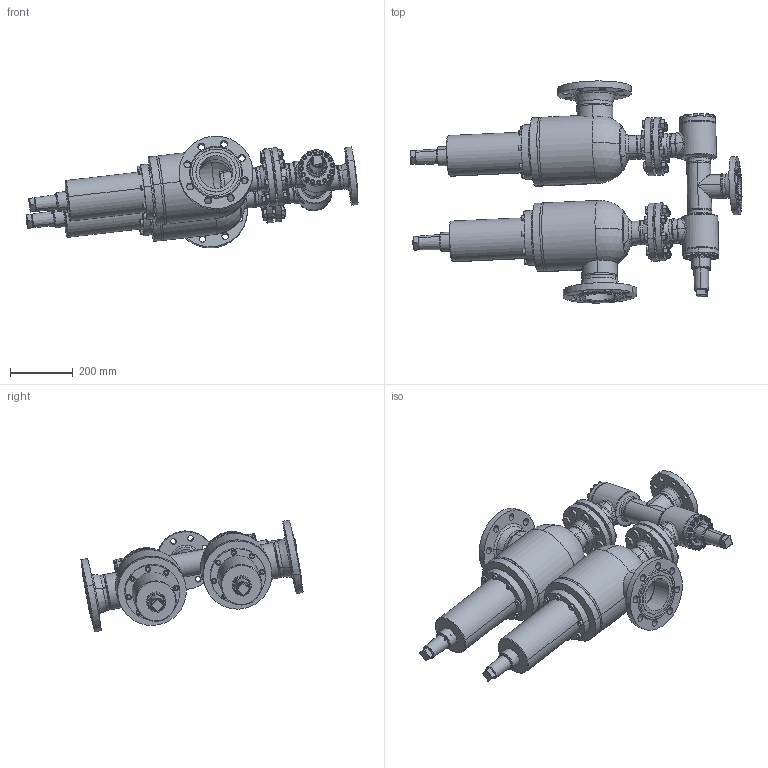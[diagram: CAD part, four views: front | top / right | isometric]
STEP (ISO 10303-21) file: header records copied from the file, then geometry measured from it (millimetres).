
FILE_DESCRIPTION (( 'STEP AP214' ), '1' );
FILE_NAME ('WVR-SVUB_168FL_DN65_DIN-FL.STEP', '2010-09-10T05:26:43', ( 'Eckhard Grams' ), ( 'AWP Kälte Klima Armaturen GmbH' ), 'SwSTEP 2.0', 'SolidWorks 2002296', '' );
FILE_SCHEMA (( 'AUTOMOTIVE_DESIGN' ));
Length unit declared in the file: millimetre
Products named in the file (38): WVR-SVUB_168FL_DN65_DIN-FL; WVR24020D17-DN065_DIN-FL-N-F_PS40_Standard; WVB-R23000K17_Deck+Schr-DN65_Standard; Deckel23000K17-DN65_Standard; Geh,kpl23020E17-DN065_DIN-FL-N-F_PS40_Standard; Flansch-DIN2635-Feder_PS40_DIN-Flansch-DN065_PS40-Feder; Geh,kpl23000E17-DN065_R1_PS40_Standard; bead23000-17-2_Standard; bead23000-17-1_Standard; T-Stück DIN2615_DN 65; Gehäuse23000E17-DN065_R1_PS40_Standard; bead23020-17-3_Standard; bead23020-17-2_Standard; bead23020-17-1_Standard; AVR26300K17_Deck+Schr-DN65_Standard; Deckel26300K17-DN65_Standard; Zylinderschraube-DIN912_M 8x  25; SVUB44200C17-DN65-(100)_DIN-FL_Standard; Loser-FL44200-17-DN65-SVU_PS25_Standard; Flach-Dichtring44331-20-65_DN 65; Geh,kpl 44331-17-DN65-(100)_DIN-FL-N_Standard; Geh,kpl 44331-17-DN65-(100)_R1_PS25_Standard; Geh44331-17-DN65_R1_DN65-100; Kopfstück44331-17-DN65_Standard; bead44331-17-Sitzst-Geh_Standard; bead44331-17-Gehkpl1_Standard; Rohrstutzen-A44331-17-DN65-(100)_R1_SVU; Sitzstutzen44331-17-DN65_kpl-im-geh_Standard; Flansch-DIN2635-Nut_PS40_DIN-Flansch-DN100_PS40-Nut; Flansch-DIN2635-Nut_PS40_DIN-Flansch-DN065_PS40-Nut; bead44331-17-Flana-A_Standard; bead44331-17-Flana-E_Standard; Haube44331-17-DN65_kpl-lt-ZG_Standard; geteilter Ring4433-17-DN65_PS25_Standard; Kappe 16402-15_DN40-65 (M52x3)_Standard; Zylinderschraube-DIN912_M10x 35; Sechskantmutter-DIN934_M16; Sechskantschraube-DIN933_M16x 60
Assembly tree (110 placements, depth 5):
  WVR-SVUB_168FL_DN65_DIN-FL
    Sechskantschraube-DIN933_M16x 60  x16
    Sechskantmutter-DIN934_M16  x16
    SVUB44200C17-DN65-(100)_DIN-FL_Standard  x2
      Zylinderschraube-DIN912_M10x 35
      Haube44331-17-DN65_kpl-lt-ZG_Standard
      Kappe 16402-15_DN40-65 (M52x3)_Standard
      geteilter Ring4433-17-DN65_PS25_Standard
      Geh,kpl 44331-17-DN65-(100)_DIN-FL-N_Standard
        Flansch-DIN2635-Nut_PS40_DIN-Flansch-DN100_PS40-Nut
        Geh,kpl 44331-17-DN65-(100)_R1_PS25_Standard
          Geh44331-17-DN65_R1_DN65-100
          Sitzstutzen44331-17-DN65_kpl-im-geh_Standard
          Rohrstutzen-A44331-17-DN65-(100)_R1_SVU
          Kopfstück44331-17-DN65_Standard
          bead44331-17-Sitzst-Geh_Standard
          bead44331-17-Gehkpl1_Standard
        Flansch-DIN2635-Nut_PS40_DIN-Flansch-DN065_PS40-Nut
        bead44331-17-Flana-A_Standard
        bead44331-17-Flana-E_Standard
      Flach-Dichtring44331-20-65_DN 65
      Loser-FL44200-17-DN65-SVU_PS25_Standard
    WVR24020D17-DN065_DIN-FL-N-F_PS40_Standard
      WVB-R23000K17_Deck+Schr-DN65_Standard
        Zylinderschraube-DIN912_M 8x  25  x16
        Deckel23000K17-DN65_Standard
      Kappe 16402-15_DN40-65 (M52x3)_Standard
      AVR26300K17_Deck+Schr-DN65_Standard
        Zylinderschraube-DIN912_M 8x  25  x16
        Deckel26300K17-DN65_Standard
      Geh,kpl23020E17-DN065_DIN-FL-N-F_PS40_Standard
        Flansch-DIN2635-Feder_PS40_DIN-Flansch-DN065_PS40-Feder  x2
        Geh,kpl23000E17-DN065_R1_PS40_Standard
          Gehäuse23000E17-DN065_R1_PS40_Standard  x2
          bead23000-17-2_Standard
          T-Stück DIN2615_DN 65
          bead23000-17-1_Standard
        bead23020-17-2_Standard
        Flansch-DIN2635-Nut_PS40_DIN-Flansch-DN065_PS40-Nut
        bead23020-17-3_Standard
        bead23020-17-1_Standard
Bounding box: 1058.46 x 707.9 x 356.57 mm (x, y, z)
Volume: 12785657.2 mm3; surface area: 3042045.9 mm2
Topology: 126 solids, 126 shells, 2885 faces, 6551 edges, 4003 vertices
Faces by surface type: plane 953, cylinder 874, cone 783, torus 177, bspline 88, sphere 10
Entity records: 55651 total; most frequent: CARTESIAN_POINT 35369, DIRECTION 3954, ORIENTED_EDGE 3500, EDGE_CURVE 1750, AXIS2_PLACEMENT_3D 1690, VERTEX_POINT 1086, EDGE_LOOP 936, CIRCLE 880
